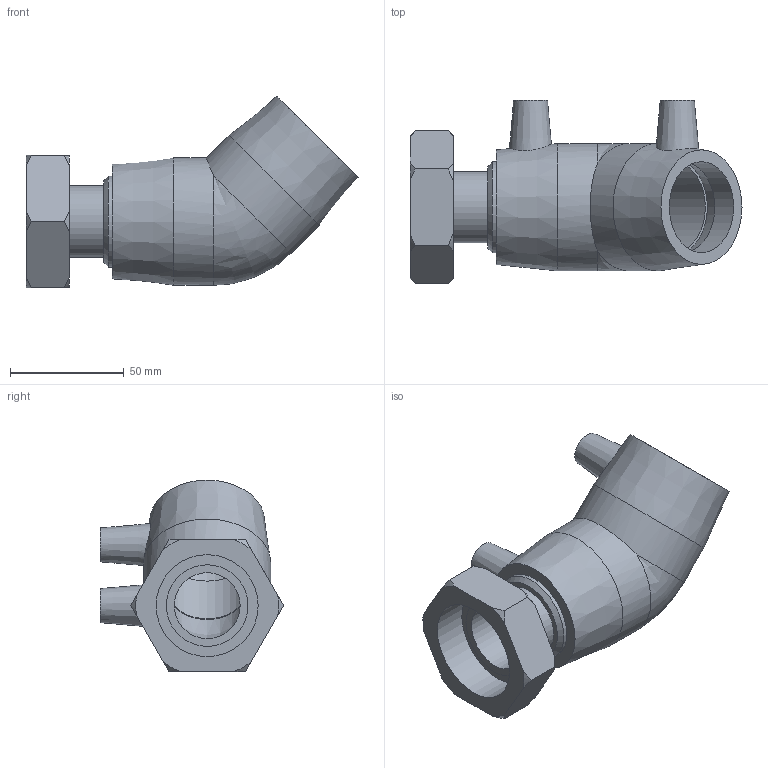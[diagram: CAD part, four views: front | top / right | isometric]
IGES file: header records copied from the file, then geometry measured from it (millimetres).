
Global section: file name: 494604040015.ipt; native system: Autodesk Inventor 2015; preprocessor: unknown; author: KIM; date: 20171106.094154; units: millimetre
Bounding box: 146 x 80.63 x 84.3 mm (x, y, z)
Volume: 185884 mm3; surface area: 51580.5 mm2
Topology: 1 solids, 2 shells, 60 faces, 147 edges, 100 vertices
Faces by surface type: plane 23, cone 17, revolution 11, cylinder 8, bspline 1
Full cylindrical faces by diameter (mm): 4 x2, 31.392 x1, 35.876 x1, 40 x2, 56 x2
